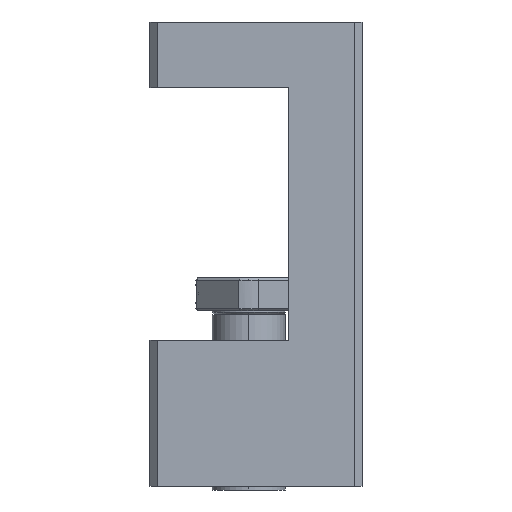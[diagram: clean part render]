
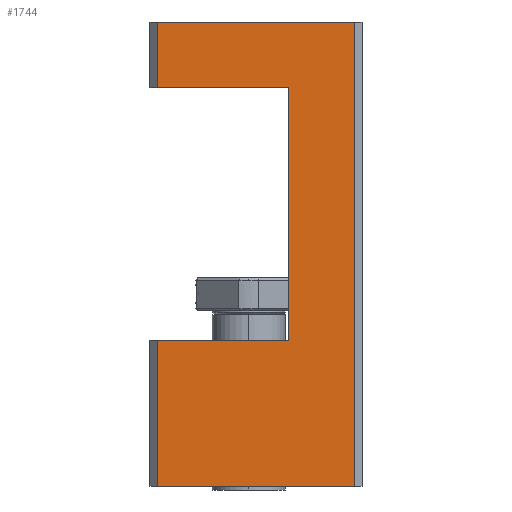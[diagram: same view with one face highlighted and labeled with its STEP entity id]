
A CAD part, left-side view. The second image highlights one B-rep face of the part: STEP entity #1744.
In plain terms, the highlighted planar face has unit normal (-1, 0, 0).
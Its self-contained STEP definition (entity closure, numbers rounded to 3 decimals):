
#219 = DIRECTION ( 'NONE',  ( 1., 0., 0. ) ) ;
#331 = VERTEX_POINT ( 'NONE', #2652 ) ;
#464 = EDGE_CURVE ( 'NONE', #2763, #4606, #4135, .T. ) ;
#531 = EDGE_CURVE ( 'NONE', #3099, #759, #5420, .T. ) ;
#534 = DIRECTION ( 'NONE',  ( 0., 0., -1. ) ) ;
#582 = VERTEX_POINT ( 'NONE', #1045 ) ;
#759 = VERTEX_POINT ( 'NONE', #4092 ) ;
#783 = CARTESIAN_POINT ( 'NONE',  ( -19., 13.5, 63.5 ) ) ;
#866 = DIRECTION ( 'NONE',  ( 0., 0., 1. ) ) ;
#924 = LINE ( 'NONE', #1341, #1111 ) ;
#927 = ORIENTED_EDGE ( 'NONE', *, *, #1949, .T. ) ;
#982 = EDGE_LOOP ( 'NONE', ( #5657, #1414, #2628, #927, #2200, #3003, #3638, #3002 ) ) ;
#1020 = VERTEX_POINT ( 'NONE', #4153 ) ;
#1045 = CARTESIAN_POINT ( 'NONE',  ( -19., 12.5, 54.5 ) ) ;
#1077 = LINE ( 'NONE', #1954, #3537 ) ;
#1111 = VECTOR ( 'NONE', #866, 1000. ) ;
#1129 = CARTESIAN_POINT ( 'NONE',  ( -19., -5.5, 54.5 ) ) ;
#1184 = CARTESIAN_POINT ( 'NONE',  ( -19., 13.5, 0. ) ) ;
#1216 = VECTOR ( 'NONE', #3323, 1000. ) ;
#1227 = PLANE ( 'NONE',  #2579 ) ;
#1304 = VERTEX_POINT ( 'NONE', #3103 ) ;
#1341 = CARTESIAN_POINT ( 'NONE',  ( -19., -14.5, 63.5 ) ) ;
#1414 = ORIENTED_EDGE ( 'NONE', *, *, #4497, .T. ) ;
#1487 = DIRECTION ( 'NONE',  ( 0., -1., 0. ) ) ;
#1573 = CARTESIAN_POINT ( 'NONE',  ( -19., 18.567, 54.5 ) ) ;
#1744 = ADVANCED_FACE ( 'NONE', ( #4611 ), #1227, .F. ) ;
#1949 = EDGE_CURVE ( 'NONE', #2763, #582, #4788, .T. ) ;
#1954 = CARTESIAN_POINT ( 'NONE',  ( -19., 18.567, 20. ) ) ;
#2121 = VECTOR ( 'NONE', #3508, 1000. ) ;
#2200 = ORIENTED_EDGE ( 'NONE', *, *, #4684, .T. ) ;
#2215 = EDGE_CURVE ( 'NONE', #331, #3099, #3672, .T. ) ;
#2281 = VECTOR ( 'NONE', #534, 1000. ) ;
#2395 = VECTOR ( 'NONE', #4074, 1000. ) ;
#2579 = AXIS2_PLACEMENT_3D ( 'NONE', #783, #219, #5465 ) ;
#2628 = ORIENTED_EDGE ( 'NONE', *, *, #464, .F. ) ;
#2652 = CARTESIAN_POINT ( 'NONE',  ( -19., 12.5, 20. ) ) ;
#2763 = VERTEX_POINT ( 'NONE', #4288 ) ;
#2919 = CARTESIAN_POINT ( 'NONE',  ( -19., 12.5, 63.5 ) ) ;
#3002 = ORIENTED_EDGE ( 'NONE', *, *, #2215, .T. ) ;
#3003 = ORIENTED_EDGE ( 'NONE', *, *, #5669, .T. ) ;
#3099 = VERTEX_POINT ( 'NONE', #5453 ) ;
#3103 = CARTESIAN_POINT ( 'NONE',  ( -19., -5.5, 54.5 ) ) ;
#3323 = DIRECTION ( 'NONE',  ( 0., 0., -1. ) ) ;
#3495 = DIRECTION ( 'NONE',  ( 0., 1., 0. ) ) ;
#3508 = DIRECTION ( 'NONE',  ( 0., -1., 0. ) ) ;
#3537 = VECTOR ( 'NONE', #3495, 1000. ) ;
#3615 = VECTOR ( 'NONE', #4504, 1000. ) ;
#3638 = ORIENTED_EDGE ( 'NONE', *, *, #4709, .T. ) ;
#3672 = LINE ( 'NONE', #6041, #1216 ) ;
#3698 = CARTESIAN_POINT ( 'NONE',  ( -19., -14.5, 63.5 ) ) ;
#4074 = DIRECTION ( 'NONE',  ( 0., 0., -1. ) ) ;
#4092 = CARTESIAN_POINT ( 'NONE',  ( -19., -14.5, 0. ) ) ;
#4135 = LINE ( 'NONE', #4469, #2121 ) ;
#4153 = CARTESIAN_POINT ( 'NONE',  ( -19., -5.5, 20. ) ) ;
#4288 = CARTESIAN_POINT ( 'NONE',  ( -19., 12.5, 63.5 ) ) ;
#4367 = LINE ( 'NONE', #1573, #5120 ) ;
#4469 = CARTESIAN_POINT ( 'NONE',  ( -19., 13.5, 63.5 ) ) ;
#4497 = EDGE_CURVE ( 'NONE', #759, #4606, #924, .T. ) ;
#4504 = DIRECTION ( 'NONE',  ( 0., -1., 0. ) ) ;
#4606 = VERTEX_POINT ( 'NONE', #3698 ) ;
#4611 = FACE_OUTER_BOUND ( 'NONE', #982, .T. ) ;
#4684 = EDGE_CURVE ( 'NONE', #582, #1304, #4367, .T. ) ;
#4709 = EDGE_CURVE ( 'NONE', #1020, #331, #1077, .T. ) ;
#4788 = LINE ( 'NONE', #2919, #2281 ) ;
#5120 = VECTOR ( 'NONE', #1487, 1000. ) ;
#5420 = LINE ( 'NONE', #1184, #3615 ) ;
#5453 = CARTESIAN_POINT ( 'NONE',  ( -19., 12.5, 0. ) ) ;
#5465 = DIRECTION ( 'NONE',  ( 0., 1., 0. ) ) ;
#5657 = ORIENTED_EDGE ( 'NONE', *, *, #531, .T. ) ;
#5669 = EDGE_CURVE ( 'NONE', #1304, #1020, #5888, .T. ) ;
#5888 = LINE ( 'NONE', #1129, #2395 ) ;
#6041 = CARTESIAN_POINT ( 'NONE',  ( -19., 12.5, 63.5 ) ) ;
